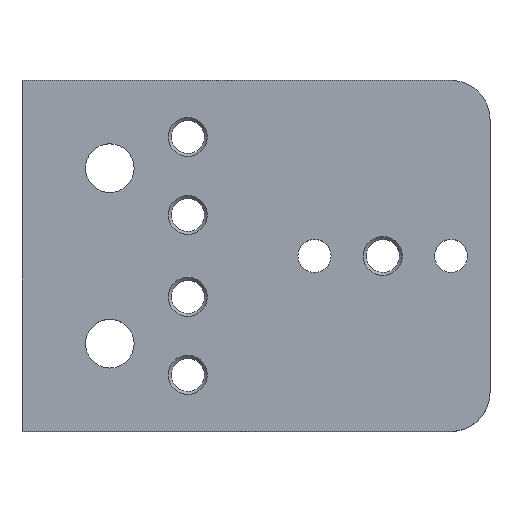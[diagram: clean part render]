
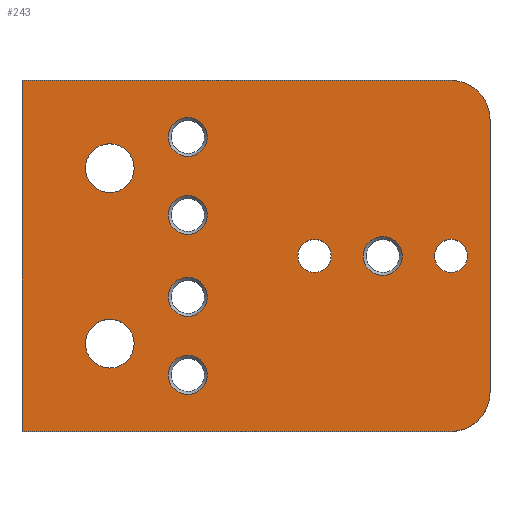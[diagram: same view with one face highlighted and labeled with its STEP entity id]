
A CAD part, top view. The second image highlights one B-rep face of the part: STEP entity #243.
In plain terms, the highlighted planar face has unit normal (0, 0, 1).
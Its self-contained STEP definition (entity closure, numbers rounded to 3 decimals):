
#129=FACE_BOUND('',#298,.T.);
#130=FACE_BOUND('',#299,.T.);
#131=FACE_BOUND('',#300,.T.);
#132=FACE_BOUND('',#301,.T.);
#133=FACE_BOUND('',#302,.T.);
#134=FACE_BOUND('',#303,.T.);
#135=FACE_BOUND('',#304,.T.);
#136=FACE_BOUND('',#305,.T.);
#137=FACE_BOUND('',#306,.T.);
#138=FACE_BOUND('',#307,.T.);
#196=CIRCLE('',#609,4.25);
#198=CIRCLE('',#612,6.25);
#200=CIRCLE('',#615,6.25);
#202=CIRCLE('',#619,4.25);
#203=CIRCLE('',#621,5.);
#204=CIRCLE('',#622,5.);
#205=CIRCLE('',#623,5.);
#206=CIRCLE('',#624,5.);
#207=CIRCLE('',#625,5.);
#208=CIRCLE('',#626,10.);
#209=CIRCLE('',#627,10.);
#243=ADVANCED_FACE('',(#129,#130,#131,#132,#133,#134,#135,#136,#137,#138),
#274,.T.);
#274=PLANE('',#628);
#298=EDGE_LOOP('',(#390));
#299=EDGE_LOOP('',(#391));
#300=EDGE_LOOP('',(#392));
#301=EDGE_LOOP('',(#393));
#302=EDGE_LOOP('',(#394));
#303=EDGE_LOOP('',(#395,#396,#397,#398,#399,#400));
#304=EDGE_LOOP('',(#401));
#305=EDGE_LOOP('',(#402));
#306=EDGE_LOOP('',(#403));
#307=EDGE_LOOP('',(#404));
#390=ORIENTED_EDGE('',*,*,#544,.F.);
#391=ORIENTED_EDGE('',*,*,#545,.F.);
#392=ORIENTED_EDGE('',*,*,#546,.F.);
#393=ORIENTED_EDGE('',*,*,#547,.F.);
#394=ORIENTED_EDGE('',*,*,#548,.F.);
#395=ORIENTED_EDGE('',*,*,#531,.T.);
#396=ORIENTED_EDGE('',*,*,#549,.T.);
#397=ORIENTED_EDGE('',*,*,#539,.T.);
#398=ORIENTED_EDGE('',*,*,#524,.T.);
#399=ORIENTED_EDGE('',*,*,#528,.T.);
#400=ORIENTED_EDGE('',*,*,#550,.T.);
#401=ORIENTED_EDGE('',*,*,#538,.F.);
#402=ORIENTED_EDGE('',*,*,#536,.F.);
#403=ORIENTED_EDGE('',*,*,#534,.F.);
#404=ORIENTED_EDGE('',*,*,#543,.F.);
#476=VERTEX_POINT('',#851);
#477=VERTEX_POINT('',#853);
#479=VERTEX_POINT('',#859);
#482=VERTEX_POINT('',#866);
#483=VERTEX_POINT('',#868);
#485=VERTEX_POINT('',#874);
#487=VERTEX_POINT('',#879);
#489=VERTEX_POINT('',#884);
#490=VERTEX_POINT('',#887);
#493=VERTEX_POINT('',#895);
#494=VERTEX_POINT('',#898);
#495=VERTEX_POINT('',#900);
#496=VERTEX_POINT('',#902);
#497=VERTEX_POINT('',#904);
#498=VERTEX_POINT('',#906);
#524=EDGE_CURVE('',#477,#476,#578,.T.);
#528=EDGE_CURVE('',#476,#479,#582,.T.);
#531=EDGE_CURVE('',#483,#482,#585,.T.);
#534=EDGE_CURVE('',#485,#485,#196,.T.);
#536=EDGE_CURVE('',#487,#487,#198,.T.);
#538=EDGE_CURVE('',#489,#489,#200,.T.);
#539=EDGE_CURVE('',#490,#477,#587,.T.);
#543=EDGE_CURVE('',#493,#493,#202,.T.);
#544=EDGE_CURVE('',#494,#494,#203,.T.);
#545=EDGE_CURVE('',#495,#495,#204,.T.);
#546=EDGE_CURVE('',#496,#496,#205,.T.);
#547=EDGE_CURVE('',#497,#497,#206,.T.);
#548=EDGE_CURVE('',#498,#498,#207,.T.);
#549=EDGE_CURVE('',#482,#490,#208,.T.);
#550=EDGE_CURVE('',#479,#483,#209,.T.);
#578=LINE('',#852,#592);
#582=LINE('',#860,#596);
#585=LINE('',#867,#599);
#587=LINE('',#886,#601);
#592=VECTOR('',#684,1.);
#596=VECTOR('',#690,1.);
#599=VECTOR('',#695,1.);
#601=VECTOR('',#717,1.);
#609=AXIS2_PLACEMENT_3D('',#873,#701,#702);
#612=AXIS2_PLACEMENT_3D('',#878,#707,#708);
#615=AXIS2_PLACEMENT_3D('',#883,#713,#714);
#619=AXIS2_PLACEMENT_3D('',#894,#724,#725);
#621=AXIS2_PLACEMENT_3D('',#897,#728,#729);
#622=AXIS2_PLACEMENT_3D('',#899,#730,#731);
#623=AXIS2_PLACEMENT_3D('',#901,#732,#733);
#624=AXIS2_PLACEMENT_3D('',#903,#734,#735);
#625=AXIS2_PLACEMENT_3D('',#905,#736,#737);
#626=AXIS2_PLACEMENT_3D('',#907,#738,#739);
#627=AXIS2_PLACEMENT_3D('',#908,#740,#741);
#628=AXIS2_PLACEMENT_3D('',#909,#742,#743);
#684=DIRECTION('',(0.,-1.,0.));
#690=DIRECTION('',(1.,0.,0.));
#695=DIRECTION('',(0.,1.,0.));
#701=DIRECTION('',(0.,0.,1.));
#702=DIRECTION('',(1.,0.,0.));
#707=DIRECTION('',(0.,0.,1.));
#708=DIRECTION('',(1.,0.,0.));
#713=DIRECTION('',(0.,0.,1.));
#714=DIRECTION('',(1.,0.,0.));
#717=DIRECTION('',(-1.,0.,0.));
#724=DIRECTION('',(0.,0.,1.));
#725=DIRECTION('',(1.,0.,0.));
#728=DIRECTION('',(0.,0.,1.));
#729=DIRECTION('',(1.,0.,0.));
#730=DIRECTION('',(0.,0.,1.));
#731=DIRECTION('',(1.,0.,0.));
#732=DIRECTION('',(0.,0.,1.));
#733=DIRECTION('',(1.,0.,0.));
#734=DIRECTION('',(0.,0.,1.));
#735=DIRECTION('',(1.,0.,0.));
#736=DIRECTION('',(0.,0.,1.));
#737=DIRECTION('',(1.,0.,0.));
#738=DIRECTION('',(0.,0.,1.));
#739=DIRECTION('',(1.,0.,0.));
#740=DIRECTION('',(0.,0.,1.));
#741=DIRECTION('',(1.,0.,0.));
#742=DIRECTION('',(0.,0.,1.));
#743=DIRECTION('',(1.,0.,0.));
#851=CARTESIAN_POINT('',(-60.,-45.,19.5));
#852=CARTESIAN_POINT('',(-60.,45.,19.5));
#853=CARTESIAN_POINT('',(-60.,45.,19.5));
#859=CARTESIAN_POINT('',(50.,-45.,19.5));
#860=CARTESIAN_POINT('',(-60.,-45.,19.5));
#866=CARTESIAN_POINT('',(60.,35.,19.5));
#867=CARTESIAN_POINT('',(60.,-45.,19.5));
#868=CARTESIAN_POINT('',(60.,-35.,19.5));
#873=CARTESIAN_POINT('',(15.,0.,19.5));
#874=CARTESIAN_POINT('',(19.25,0.,19.5));
#878=CARTESIAN_POINT('',(-37.5,22.5,19.5));
#879=CARTESIAN_POINT('',(-31.25,22.5,19.5));
#883=CARTESIAN_POINT('',(-37.5,-22.5,19.5));
#884=CARTESIAN_POINT('',(-31.25,-22.5,19.5));
#886=CARTESIAN_POINT('',(60.,45.,19.5));
#887=CARTESIAN_POINT('',(50.,45.,19.5));
#894=CARTESIAN_POINT('',(50.,0.,19.5));
#895=CARTESIAN_POINT('',(54.25,0.,19.5));
#897=CARTESIAN_POINT('',(-17.5,10.5,19.5));
#898=CARTESIAN_POINT('',(-12.5,10.5,19.5));
#899=CARTESIAN_POINT('',(32.5,0.,19.5));
#900=CARTESIAN_POINT('',(37.5,0.,19.5));
#901=CARTESIAN_POINT('',(-17.5,30.5,19.5));
#902=CARTESIAN_POINT('',(-12.5,30.5,19.5));
#903=CARTESIAN_POINT('',(-17.5,-30.5,19.5));
#904=CARTESIAN_POINT('',(-12.5,-30.5,19.5));
#905=CARTESIAN_POINT('',(-17.5,-10.5,19.5));
#906=CARTESIAN_POINT('',(-12.5,-10.5,19.5));
#907=CARTESIAN_POINT('',(50.,35.,19.5));
#908=CARTESIAN_POINT('',(50.,-35.,19.5));
#909=CARTESIAN_POINT('',(-53.5,0.,19.5));
